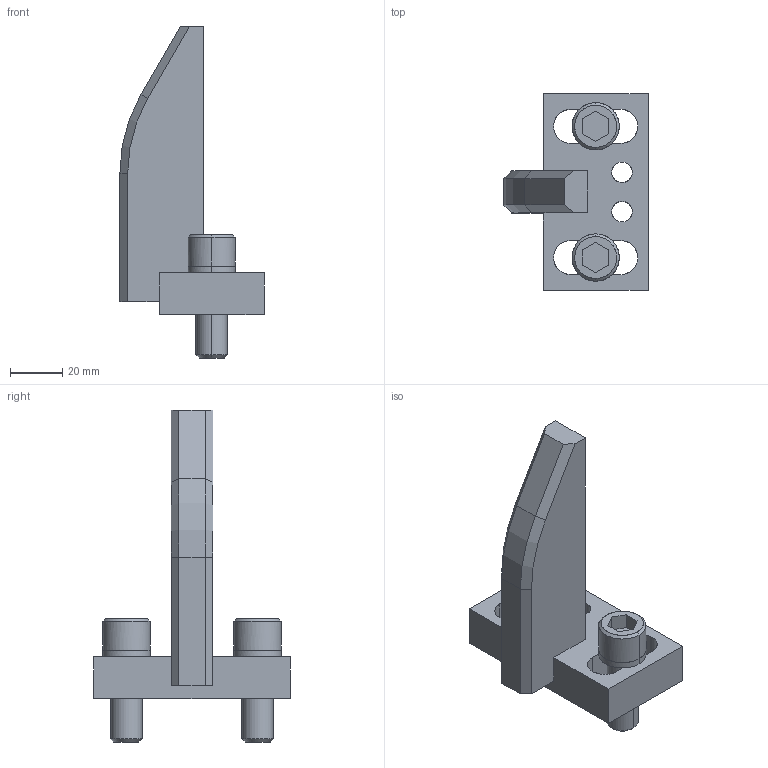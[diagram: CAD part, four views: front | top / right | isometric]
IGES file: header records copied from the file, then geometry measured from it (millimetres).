
Global section: file name: E:\UnigraphicsGraphicData\MISUMI_PRESS-PARTS\IGES\3d_ngna-110-40-m12_01512_r00.igs; native system: NX V5.0; preprocessor: UGS NX IGES V5.0; author: MISUMI; date: 20110105.162042; units: millimetre
Bounding box: 55 x 75 x 126.5 mm (x, y, z)
Surface area: 27829.8 mm2 (no closed solid volume)
Topology: 0 solids, 0 shells, 104 faces, 666 edges, 666 vertices
Faces by surface type: bspline 104
